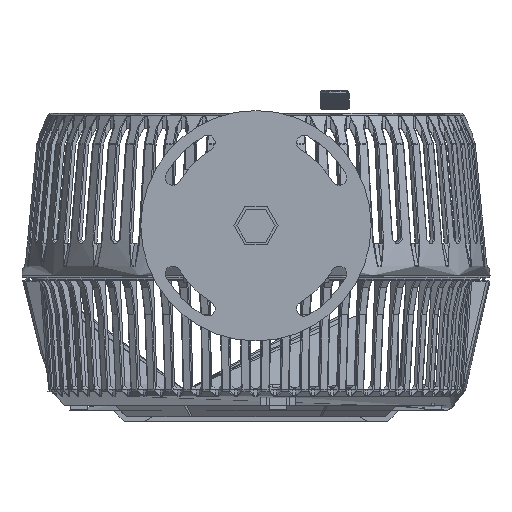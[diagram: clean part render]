
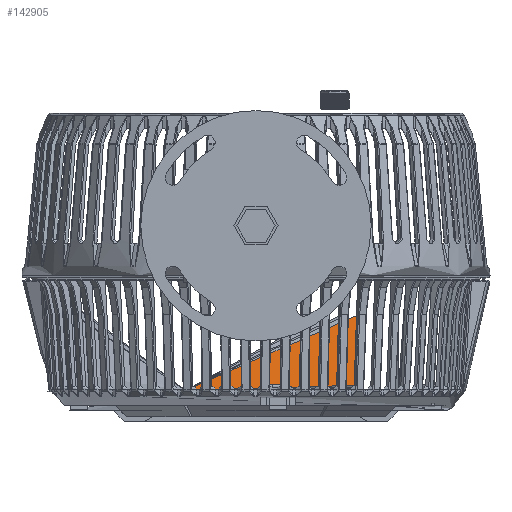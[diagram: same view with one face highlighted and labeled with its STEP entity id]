
A CAD part, left-side view. The second image highlights one B-rep face of the part: STEP entity #142905.
In plain terms, the highlighted planar face has unit normal (0.479, 0, -0.878) by its records, which use the part's own axes.
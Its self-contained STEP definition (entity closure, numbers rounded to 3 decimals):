
#12402 = B_SPLINE_CURVE_WITH_KNOTS ( 'NONE', 3,
 ( #186260, #225578, #66852, #146905 ),
 .UNSPECIFIED., .F., .F.,
 ( 4, 4 ),
 ( 0., 1. ),
 .UNSPECIFIED. ) ;
#12613 = CARTESIAN_POINT ( 'NONE',  ( 100.379, -8.191, 54.811 ) ) ;
#13416 = B_SPLINE_CURVE_WITH_KNOTS ( 'NONE', 3,
 ( #234650, #238541, #54925, #40417, #56257, #79831 ),
 .UNSPECIFIED., .F., .F.,
 ( 4, 2, 4 ),
 ( 0., 0.5, 1. ),
 .UNSPECIFIED. ) ;
#14246 = DIRECTION ( 'NONE',  ( 0., 1., 0. ) ) ;
#15679 = B_SPLINE_CURVE_WITH_KNOTS ( 'NONE', 3,
 ( #165451, #124802, #123530, #105140 ),
 .UNSPECIFIED., .F., .F.,
 ( 4, 4 ),
 ( 0., 1. ),
 .UNSPECIFIED. ) ;
#16807 = PLANE ( 'NONE',  #50308 ) ;
#22528 = VERTEX_POINT ( 'NONE', #32661 ) ;
#32343 = CARTESIAN_POINT ( 'NONE',  ( 97.791, -20.041, 53.398 ) ) ;
#32660 = CARTESIAN_POINT ( 'NONE',  ( 101.811, 9.688, 55.593 ) ) ;
#32661 = CARTESIAN_POINT ( 'NONE',  ( 102.489, -4.465, 55.963 ) ) ;
#37852 = CARTESIAN_POINT ( 'NONE',  ( 100.379, -8.191, 54.811 ) ) ;
#40417 = CARTESIAN_POINT ( 'NONE',  ( 101.61, -5.579, 55.483 ) ) ;
#44277 = VERTEX_POINT ( 'NONE', #37852 ) ;
#48832 = CARTESIAN_POINT ( 'NONE',  ( 93.649, -59.278, 51.136 ) ) ;
#49340 = CARTESIAN_POINT ( 'NONE',  ( 94.468, -59.476, 51.584 ) ) ;
#50308 = AXIS2_PLACEMENT_3D ( 'NONE', #32660, #97006, #14246 ) ;
#54925 = CARTESIAN_POINT ( 'NONE',  ( 100.905, -6.826, 55.098 ) ) ;
#55197 = CARTESIAN_POINT ( 'NONE',  ( 100.652, -4.465, 54.96 ) ) ;
#56257 = CARTESIAN_POINT ( 'NONE',  ( 102.028, -4.991, 55.711 ) ) ;
#59991 = EDGE_CURVE ( 'NONE', #94419, #179477, #15679, .T. ) ;
#66852 = CARTESIAN_POINT ( 'NONE',  ( 95.869, -22.736, 52.348 ) ) ;
#68309 = ORIENTED_EDGE ( 'NONE', *, *, #245243, .F. ) ;
#70311 = CARTESIAN_POINT ( 'NONE',  ( 95.252, -60.193, 52.012 ) ) ;
#71750 = CARTESIAN_POINT ( 'NONE',  ( 99.009, -12.848, 54.063 ) ) ;
#72903 = CARTESIAN_POINT ( 'NONE',  ( 94.9, -59.778, 51.819 ) ) ;
#74988 = VERTEX_POINT ( 'NONE', #177052 ) ;
#79831 = CARTESIAN_POINT ( 'NONE',  ( 102.489, -4.465, 55.963 ) ) ;
#80440 = ORIENTED_EDGE ( 'NONE', *, *, #122154, .F. ) ;
#86828 = ORIENTED_EDGE ( 'NONE', *, *, #90010, .F. ) ;
#88942 = B_SPLINE_CURVE_WITH_KNOTS ( 'NONE', 3,
 ( #153099, #32343, #174070, #71750, #112476, #12613 ),
 .UNSPECIFIED., .F., .F.,
 ( 4, 2, 4 ),
 ( 0., 0.5, 1. ),
 .UNSPECIFIED. ) ;
#90010 = EDGE_CURVE ( 'NONE', #44277, #22528, #13416, .T. ) ;
#94419 = VERTEX_POINT ( 'NONE', #191055 ) ;
#97006 = DIRECTION ( 'NONE',  ( -0.479, 0., 0.878 ) ) ;
#97252 = CARTESIAN_POINT ( 'NONE',  ( 98.815, -4.465, 53.957 ) ) ;
#97747 = EDGE_CURVE ( 'NONE', #179477, #44277, #88942, .T. ) ;
#105140 = CARTESIAN_POINT ( 'NONE',  ( 97.641, -22.502, 53.316 ) ) ;
#109712 = CARTESIAN_POINT ( 'NONE',  ( 97.641, -22.502, 53.316 ) ) ;
#112476 = CARTESIAN_POINT ( 'NONE',  ( 99.616, -10.5, 54.395 ) ) ;
#116897 = CARTESIAN_POINT ( 'NONE',  ( 102.489, -4.465, 55.963 ) ) ;
#122154 = EDGE_CURVE ( 'NONE', #22528, #74988, #232631, .T. ) ;
#123530 = CARTESIAN_POINT ( 'NONE',  ( 96.875, -35.12, 52.898 ) ) ;
#124802 = CARTESIAN_POINT ( 'NONE',  ( 96.108, -47.738, 52.479 ) ) ;
#130692 = CARTESIAN_POINT ( 'NONE',  ( 93.986, -59.306, 51.32 ) ) ;
#131988 = CARTESIAN_POINT ( 'NONE',  ( 95.144, -60.042, 51.953 ) ) ;
#133267 = CARTESIAN_POINT ( 'NONE',  ( 94.763, -59.663, 51.745 ) ) ;
#133898 = ORIENTED_EDGE ( 'NONE', *, *, #250165, .T. ) ;
#142905 = ADVANCED_FACE ( 'NONE', ( #235987 ), #16807, .F. ) ;
#146905 = CARTESIAN_POINT ( 'NONE',  ( 96.978, -4.465, 52.954 ) ) ;
#152947 = CARTESIAN_POINT ( 'NONE',  ( 93.649, -59.278, 51.136 ) ) ;
#153099 = CARTESIAN_POINT ( 'NONE',  ( 97.641, -22.502, 53.316 ) ) ;
#154223 = CARTESIAN_POINT ( 'NONE',  ( 93.817, -59.28, 51.228 ) ) ;
#165451 = CARTESIAN_POINT ( 'NONE',  ( 95.342, -60.356, 52.061 ) ) ;
#174070 = CARTESIAN_POINT ( 'NONE',  ( 98.096, -17.618, 53.565 ) ) ;
#175916 = CARTESIAN_POINT ( 'NONE',  ( 96.978, -4.465, 52.954 ) ) ;
#177052 = CARTESIAN_POINT ( 'NONE',  ( 96.978, -4.465, 52.954 ) ) ;
#179477 = VERTEX_POINT ( 'NONE', #109712 ) ;
#179687 = EDGE_LOOP ( 'NONE', ( #86828, #180875, #180755, #68309, #133898, #80440 ) ) ;
#180755 = ORIENTED_EDGE ( 'NONE', *, *, #59991, .F. ) ;
#180875 = ORIENTED_EDGE ( 'NONE', *, *, #97747, .F. ) ;
#186260 = CARTESIAN_POINT ( 'NONE',  ( 93.649, -59.278, 51.136 ) ) ;
#191055 = CARTESIAN_POINT ( 'NONE',  ( 72.637, -61.974, -36.667 ) ) ;
#193559 = CARTESIAN_POINT ( 'NONE',  ( 94.312, -59.404, 51.498 ) ) ;
#207320 = B_SPLINE_CURVE_WITH_KNOTS ( 'NONE', 3,
 ( #152947, #154223, #130692, #193559, #49340, #133267, #72903, #131988, #70311, #232907 ),
 .UNSPECIFIED., .F., .F.,
 ( 4, 2, 2, 2, 4 ),
 ( 0., 0.25, 0.5, 0.75, 1. ),
 .UNSPECIFIED. ) ;
#225578 = CARTESIAN_POINT ( 'NONE',  ( 94.759, -41.007, 51.742 ) ) ;
#232631 = B_SPLINE_CURVE_WITH_KNOTS ( 'NONE', 3,
 ( #116897, #55197, #97252, #175916 ),
 .UNSPECIFIED., .F., .F.,
 ( 4, 4 ),
 ( 0., 1. ),
 .UNSPECIFIED. ) ;
#232907 = CARTESIAN_POINT ( 'NONE',  ( 95.342, -60.356, 52.061 ) ) ;
#234650 = CARTESIAN_POINT ( 'NONE',  ( 100.379, -8.191, 54.811 ) ) ;
#235987 = FACE_OUTER_BOUND ( 'NONE', #179687, .T. ) ;
#238541 = CARTESIAN_POINT ( 'NONE',  ( 100.612, -7.488, 54.938 ) ) ;
#245243 = EDGE_CURVE ( 'NONE', #252027, #94419, #207320, .T. ) ;
#250165 = EDGE_CURVE ( 'NONE', #252027, #74988, #12402, .T. ) ;
#252027 = VERTEX_POINT ( 'NONE', #48832 ) ;
